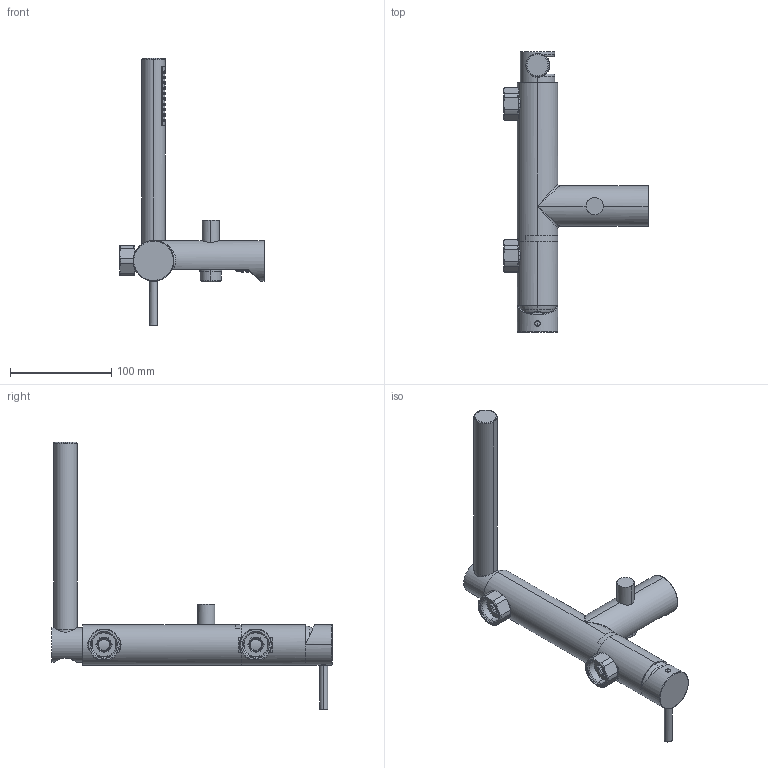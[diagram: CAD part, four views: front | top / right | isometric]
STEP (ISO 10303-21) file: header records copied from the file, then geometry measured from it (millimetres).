
FILE_DESCRIPTION (( 'STEP AP214' ), '1' );
FILE_NAME ('02102510 x architetti.STEP', '2024-09-13T08:48:12', ( '' ), ( '' ), 'SwSTEP 2.0', 'SolidWorks 2020', '' );
FILE_SCHEMA (( 'AUTOMOTIVE_DESIGN' ));
Length unit declared in the file: millimetre
Products named in the file (1): 02102510 x architetti
Bounding box: 142.81 x 277 x 263.9 mm (x, y, z)
Surface area: 101327.5 mm2 (no closed solid volume)
Topology: 0 solids, 23 shells, 5500 faces, 15493 edges, 10008 vertices
Faces by surface type: plane 3365, bspline 1025, cylinder 863, cone 217, torus 30
Entity records: 273391 total; most frequent: CARTESIAN_POINT 89463, ORIENTED_EDGE 30364, DIRECTION 19845, EDGE_CURVE 15183, VERTEX_POINT 9955, AXIS2_PLACEMENT_3D 6815, VECTOR 6215, LINE 6215
